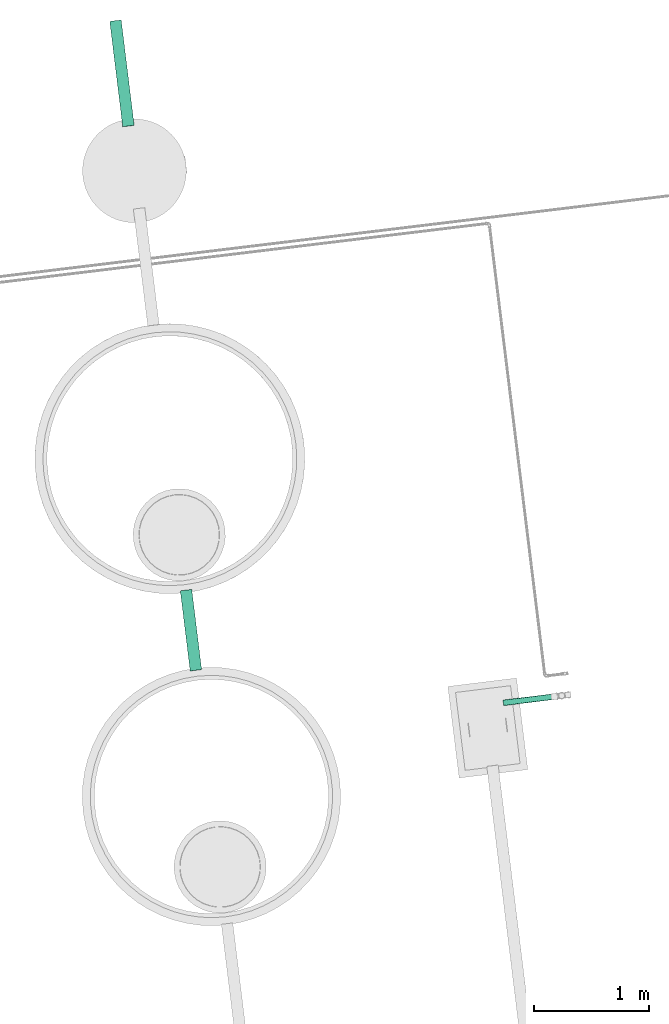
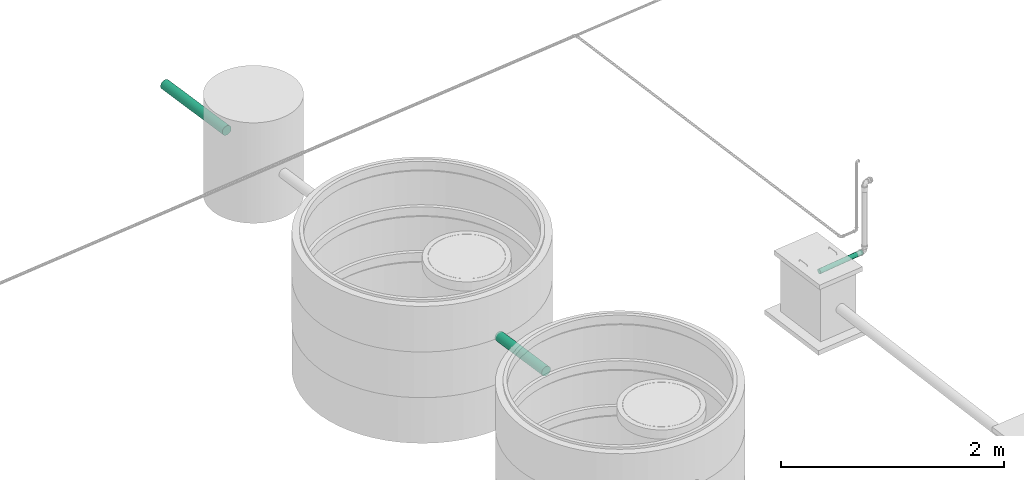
# One storey, part 56 of 97: 3 flow segments.
"""IFC2X3 building model written with IfcOpenShell, lengths in centimetres."""

from ifc_helpers import new_model, entity, si_unit, converted_unit, derived_unit, direction, frame, frame_2d, origin, origin_2d_with_axis, place, context, subcontext, project, spatial, circle, extrude, type_object, element, save


model = new_model("IFC2X3")

# Units and contexts
model_context = context("Model", 3, precision=0.001, world=origin(), true_north=direction((6.12303176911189e-17, 1.0)))
body_context = subcontext(model_context, "Body", "Model", "MODEL_VIEW")
ifc_project = project(units=[si_unit("LENGTHUNIT", "METRE", prefix="CENTI"), si_unit("AREAUNIT", "SQUARE_METRE"), si_unit("VOLUMEUNIT", "CUBIC_METRE"), converted_unit("PLANEANGLEUNIT", "DEGREE", entity("IfcRatioMeasure", 0.0174532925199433), si_unit("PLANEANGLEUNIT", "RADIAN"), dimensions=[0, 0, 0, 0, 0, 0, 0]), si_unit("MASSUNIT", "GRAM", prefix="KILO"), derived_unit("MASSDENSITYUNIT", [(si_unit("MASSUNIT", "GRAM", prefix="KILO"), 1), (si_unit("LENGTHUNIT", "METRE"), -3)]), derived_unit("MOMENTOFINERTIAUNIT", [(si_unit("LENGTHUNIT", "METRE"), 4)]), si_unit("TIMEUNIT", "SECOND"), si_unit("FREQUENCYUNIT", "HERTZ"), si_unit("THERMODYNAMICTEMPERATUREUNIT", "DEGREE_CELSIUS"), derived_unit("THERMALTRANSMITTANCEUNIT", [(si_unit("MASSUNIT", "GRAM", prefix="KILO"), 1), (si_unit("THERMODYNAMICTEMPERATUREUNIT", "KELVIN"), -1), (si_unit("TIMEUNIT", "SECOND"), -3)]), derived_unit("VOLUMETRICFLOWRATEUNIT", [(si_unit("LENGTHUNIT", "METRE"), 3), (si_unit("TIMEUNIT", "SECOND"), -1)]), si_unit("ELECTRICCURRENTUNIT", "AMPERE"), si_unit("ELECTRICVOLTAGEUNIT", "VOLT"), si_unit("POWERUNIT", "WATT"), si_unit("FORCEUNIT", "NEWTON", prefix="KILO"), si_unit("ILLUMINANCEUNIT", "LUX"), si_unit("LUMINOUSFLUXUNIT", "LUMEN"), si_unit("LUMINOUSINTENSITYUNIT", "CANDELA"), derived_unit("USERDEFINED", [(si_unit("MASSUNIT", "GRAM", prefix="KILO"), -1), (si_unit("LENGTHUNIT", "METRE"), -2), (si_unit("TIMEUNIT", "SECOND"), 3), (si_unit("LUMINOUSFLUXUNIT", "LUMEN"), 1)]), derived_unit("LINEARVELOCITYUNIT", [(si_unit("LENGTHUNIT", "METRE"), 1), (si_unit("TIMEUNIT", "SECOND"), -1)]), si_unit("PRESSUREUNIT", "PASCAL"), derived_unit("USERDEFINED", [(si_unit("LENGTHUNIT", "METRE"), -2), (si_unit("MASSUNIT", "GRAM", prefix="KILO"), 1), (si_unit("TIMEUNIT", "SECOND"), -2)]), derived_unit("LINEARFORCEUNIT", [(si_unit("MASSUNIT", "GRAM", prefix="KILO"), 1), (si_unit("LENGTHUNIT", "METRE"), 1), (si_unit("TIMEUNIT", "SECOND"), -2), (si_unit("LENGTHUNIT", "METRE"), -1)]), derived_unit("PLANARFORCEUNIT", [(si_unit("MASSUNIT", "GRAM", prefix="KILO"), 1), (si_unit("LENGTHUNIT", "METRE"), 1), (si_unit("TIMEUNIT", "SECOND"), -2), (si_unit("LENGTHUNIT", "METRE"), -2)])], contexts=[model_context])

# Site, building, storey
site_placement = place(None, origin())
site = spatial("IfcSite", under=ifc_project, at=site_placement, Name="Default", CompositionType="ELEMENT")
building_placement = place(site_placement, origin())
building = spatial("IfcBuilding", under=site, at=building_placement, Name="HIDROSSANITÁRIO", CompositionType="ELEMENT")
storey_placement = place(building_placement, frame((0.0, 0.0, -260.0)))
storey = spatial("IfcBuildingStorey", under=building, at=storey_placement, Name="TÉRREO-HID", CompositionType="ELEMENT", Elevation=-260.0)

# Flow segments
pipe_segment_type = type_object("IfcPipeSegmentType", Name="Tipos de tubos:Tubo - Esgoto - Série Normal", PredefinedType="NOTDEFINED")
flow_segment_1_placement = place(storey_placement, origin())
element("IfcFlowSegment", 1, at=flow_segment_1_placement, inside=storey, type_object=pipe_segment_type, Name="Tipos de tubos:Tubo - Esgoto - Série Normal", ObjectType="Tipos de tubos:Tubo - Esgoto - Série Normal", context=body_context, shape_type="SweptSolid", body=[
    extrude(circle(Radius=2.5, at=frame_2d((1.3227484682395e-14, 2.14908606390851e-15), x_axis=(1.0, 0.0))), frame((762.280220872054, 3187.77521116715, -26.0197960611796), z_axis=(0.992312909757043, 0.122128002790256, 0.0199960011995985), x_axis=(-0.122152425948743, 0.992511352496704, 0.0)), (0.0, 0.0, 1.0), 47.9314800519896),
])
flow_segment_2_placement = place(storey_placement, origin())
element("IfcFlowSegment", 2, at=flow_segment_2_placement, inside=storey, type_object=pipe_segment_type, Name="Tipos de tubos:Tubo - Esgoto - Série Normal", ObjectType="Tipos de tubos:Tubo - Esgoto - Série Normal", context=body_context, shape_type="SweptSolid", body=[
    extrude(circle(Radius=5.0, at=frame_2d((5.29099387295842e-14, 4.29881674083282e-15), x_axis=(1.0, 0.0))), frame((487.277489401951, 3285.46574754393, -59.6999650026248), z_axis=(0.122146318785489, -0.992461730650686, 0.00999950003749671), x_axis=(0.992511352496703, 0.122152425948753, 0.0)), (0.0, 0.0, 1.0), 70.0000000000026),
])
flow_segment_3_placement = place(storey_placement, origin())
element("IfcFlowSegment", 3, at=flow_segment_3_placement, inside=storey, type_object=pipe_segment_type, Name="Tipos de tubos:Tubo - Esgoto - Série Normal", ObjectType="Tipos de tubos:Tubo - Esgoto - Série Normal", context=body_context, shape_type="SweptSolid", body=[
    extrude(circle(Radius=5.0, at=origin_2d_with_axis()), frame((426.125475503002, 3779.01179980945, -61.92), z_axis=(0.122154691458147, -0.992460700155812, 0.00999950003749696), x_axis=(0.992510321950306, 0.122160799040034, 0.0)), (0.0, 0.0, 1.0), 92.0045998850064),
])

save(model, "model.ifc")
